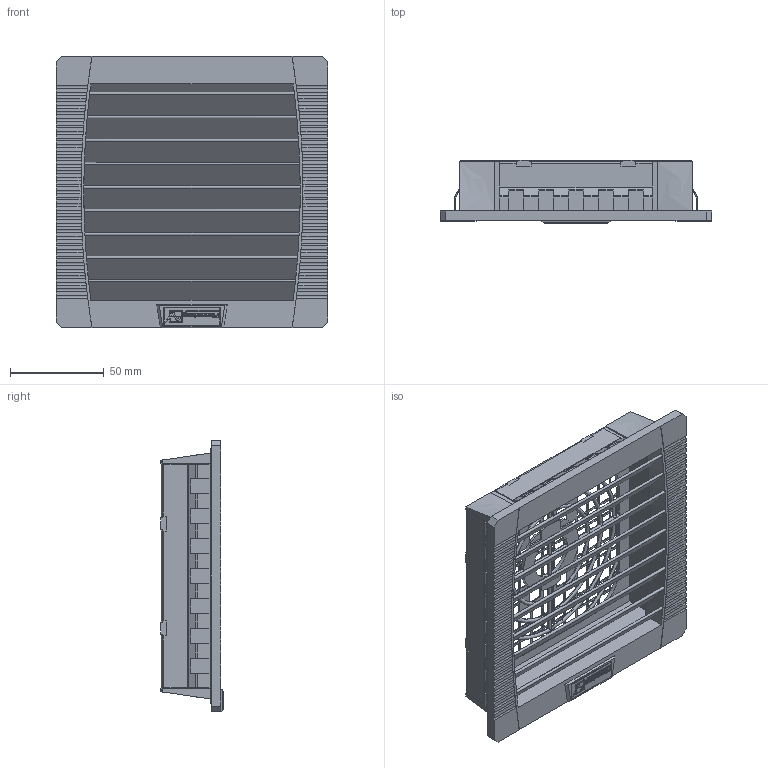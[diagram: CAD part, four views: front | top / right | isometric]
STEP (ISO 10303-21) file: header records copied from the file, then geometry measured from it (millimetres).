
FILE_DESCRIPTION (( 'STEP AP203' ), '1' );
FILE_NAME ('PFA 20EMV_PDG.STEP', '2021-11-24T11:05:02', ( '' ), ( '' ), 'SwSTEP 2.0', 'SolidWorks 2021', '' );
FILE_SCHEMA (( 'CONFIG_CONTROL_DESIGN' ));
Products named in the file (1): PFA 20EMV_PDG
Bounding box: 145 x 33.5 x 145 mm (x, y, z)
Surface area: 136891 mm2 (no closed solid volume)
Topology: 0 solids, 13 shells, 1671 faces, 5581 edges, 3805 vertices
Faces by surface type: plane 1282, cylinder 298, bspline 59, torus 32
Entity records: 68397 total; most frequent: CARTESIAN_POINT 21389, ORIENTED_EDGE 9797, DIRECTION 8443, EDGE_CURVE 5581, VECTOR 4157, LINE 4157, VERTEX_POINT 3805, AXIS2_PLACEMENT_3D 2143
